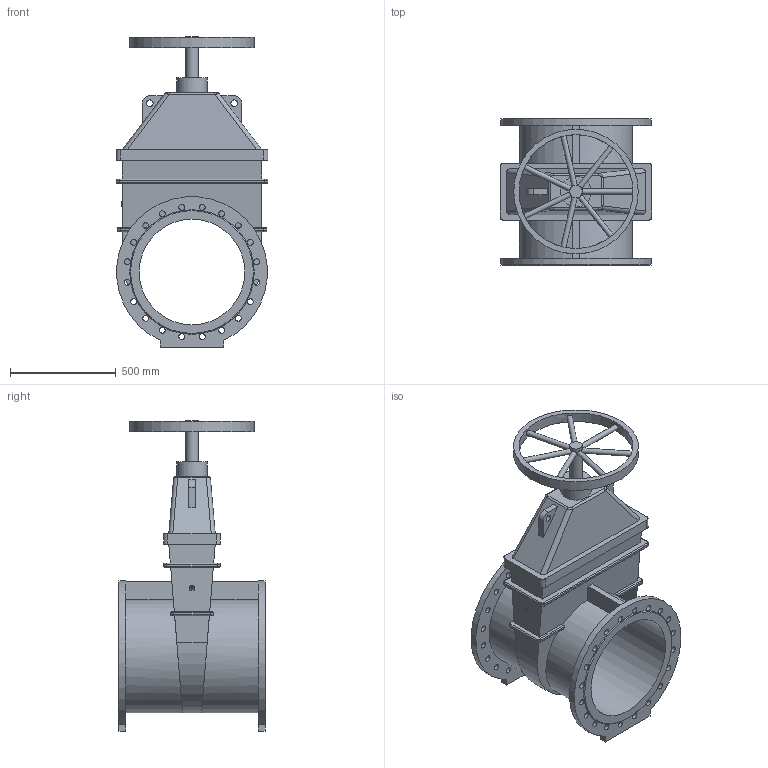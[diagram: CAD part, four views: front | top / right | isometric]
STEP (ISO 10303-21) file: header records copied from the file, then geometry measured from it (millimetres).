
FILE_DESCRIPTION(('STEP AP203'), '1');
FILE_NAME('Çàäâèæêà 47GV DN500 PN10_L700 ñ ìàõîâèêîì', '', ('UNSPECIFIED'), ('UNSPECIFIED'), 'ASCON STEP Converter 1.6', 'ASCON Math Kernel', '');
FILE_SCHEMA(('CONFIG_CONTROL_DESIGN'));
Length unit declared in the file: millimetre
Bounding box: 720 x 700 x 1473.5 mm (x, y, z)
Volume: 120142839.2 mm3; surface area: 5032182.8 mm2
Topology: 1 solids, 1 shells, 215 faces, 549 edges, 352 vertices
Faces by surface type: cylinder 108, plane 85, bspline 16, torus 4, cone 2
Full cylindrical faces by diameter (mm): 25 x7, 28 x40, 32 x2, 60 x1, 145 x1, 500 x1, 540 x1, 590 x1
Entity records: 11291 total; most frequent: CARTESIAN_POINT 4425, DIRECTION 1006, ORIENTED_EDGE 984, EDGE_CURVE 492, EDGE_LOOP 388, AXIS2_PLACEMENT_3D 384, VERTEX_POINT 352, FACE_BOUND 277
